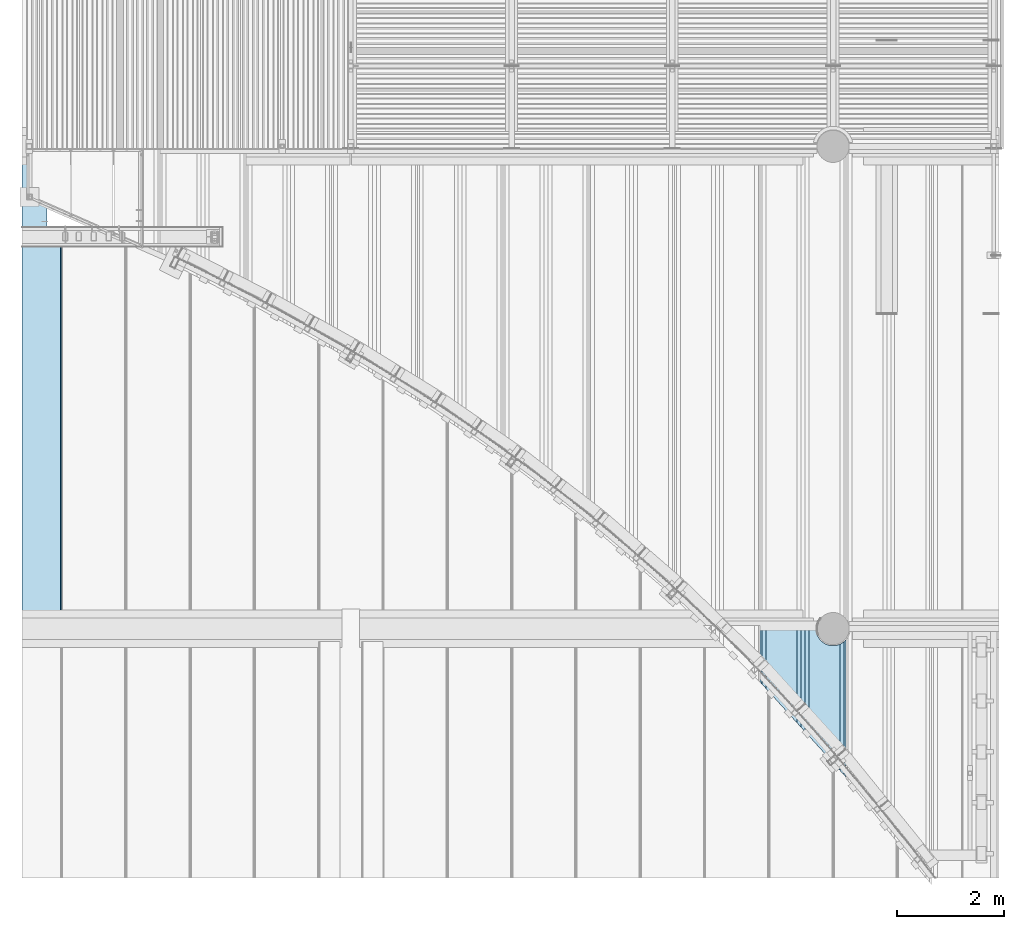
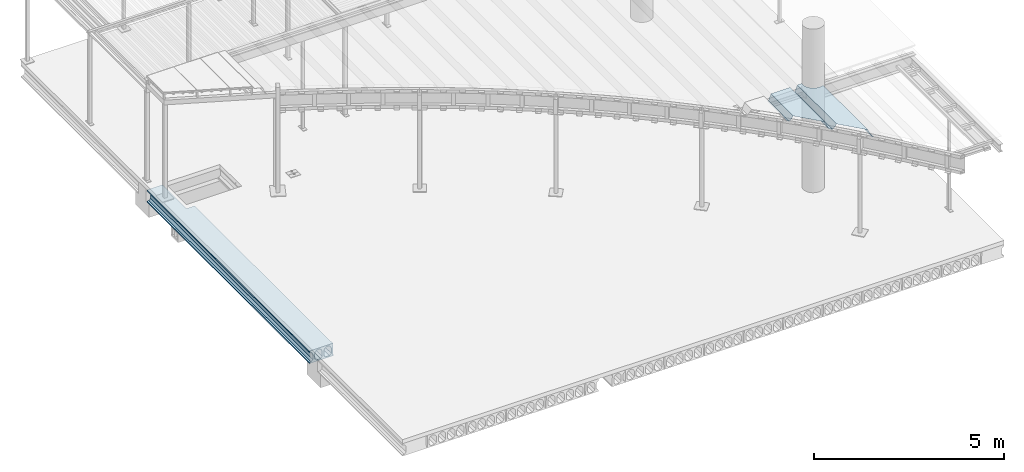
# One storey, part 52 of 98: 2 slabs.
"""IFC2X3 building model written with IfcOpenShell, lengths in millimetres."""

from ifc_helpers import new_model, entity, si_unit, converted_unit, derived_unit, direction, frame, origin_with_axes, place, context, subcontext, project, spatial, faceted_brep, material, type_object, element, save


model = new_model("IFC2X3")

# Units and contexts
model_context = context("Model", 3, precision=0.01, world=frame((0.0, 4.29681676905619e-09, 0.0)), true_north=direction((4.01073788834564e-13, 1.0)))
plan_context = context("Plan", 3, precision=0.01, world=frame((0.0, 4.29681676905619e-09, 0.0)), true_north=direction((4.01073788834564e-13, 1.0)))
body_context = subcontext(model_context, "Body", "Model", "MODEL_VIEW")
ifc_project = project(units=[converted_unit("PLANEANGLEUNIT", "DEGREE", entity("IfcPositiveLengthMeasure", 0.0174532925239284), si_unit("PLANEANGLEUNIT", "RADIAN"), dimensions=[0, 0, 0, 0, 0, 0, 0]), si_unit("AREAUNIT", "SQUARE_METRE"), si_unit("LENGTHUNIT", "METRE", prefix="MILLI"), si_unit("MASSUNIT", "GRAM", prefix="KILO"), si_unit("POWERUNIT", "WATT"), si_unit("PRESSUREUNIT", "PASCAL"), si_unit("FORCEUNIT", "NEWTON", prefix="KILO"), si_unit("ELECTRICCURRENTUNIT", "AMPERE"), si_unit("THERMODYNAMICTEMPERATUREUNIT", "DEGREE_CELSIUS"), si_unit("TIMEUNIT", "SECOND"), si_unit("VOLUMEUNIT", "CUBIC_METRE"), derived_unit("LINEARVELOCITYUNIT", [(si_unit("LENGTHUNIT", "METRE"), 1), (si_unit("TIMEUNIT", "SECOND"), -1)]), derived_unit("VOLUMETRICFLOWRATEUNIT", [(si_unit("VOLUMEUNIT", "CUBIC_METRE"), 1), (si_unit("TIMEUNIT", "SECOND"), -1)]), derived_unit("THERMALTRANSMITTANCEUNIT", [(si_unit("POWERUNIT", "WATT"), 1), (si_unit("THERMODYNAMICTEMPERATUREUNIT", "KELVIN"), -1), (si_unit("AREAUNIT", "SQUARE_METRE"), -1)])], contexts=[model_context, plan_context])

# Site, building, storey
site_placement = place(None, frame((0.0, -4.29681676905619e-09, 0.0), z_axis=(0.0, 0.0, 1.0), x_axis=(1.0, 0.0, 0.0)))
site = spatial("IfcSite", under=ifc_project, at=site_placement, Name="Gardermoen", CompositionType="ELEMENT")
building_placement = place(site_placement, frame((0.0, 4.29681676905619e-09, 0.0), z_axis=(0.0, 0.0, 1.0), x_axis=(1.0, 0.0, 0.0)))
building = spatial("IfcBuilding", under=site, at=building_placement, Name="TS", CompositionType="ELEMENT")
storey_placement = place(building_placement, origin_with_axes())
storey = spatial("IfcBuildingStorey", under=building, at=storey_placement, Name="D", CompositionType="ELEMENT", Elevation=0.0)

# Slabs
slab_type_1 = type_object("IfcSlabType", Name="HD400", PredefinedType="NOTDEFINED")
slab_1_placement = place(storey_placement, frame((513999.999766, 405739.995625, 203600.0), z_axis=(0.0, 0.0, 1.0), x_axis=(0.0, 1.0, 0.0)))
element("IfcSlab", 1, at=slab_1_placement, inside=storey, type_object=slab_type_1, Name="HULLDEKKE", ObjectType="HD400", PredefinedType="FLOOR", context=body_context, shape_type="Brep", body=[
    faceted_brep([(8520.00875000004, -329.890961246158, 114.735124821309), (8410.00409487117, -329.890108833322, 114.733930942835), (8410.00409487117, -329.890108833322, 200.0), (8520.00875000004, -329.890961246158, 200.0), (7259.97309409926, -329.998418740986, 114.885628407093), (7259.97309409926, -329.998418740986, 200.0), (8520.00875000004, -329.890961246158, -200.0), (8410.00409487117, -329.890108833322, -200.0), (8410.00409487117, -329.890108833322, -127.390108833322), (8520.00875000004, -329.890961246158, -127.390961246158), (7259.97309409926, -329.998418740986, -200.0), (7259.97309409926, -329.998418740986, -127.498418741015), (7259.97616103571, -477.5, -160.0), (7259.97730462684, -532.5, -105.0), (0.0, -532.5, -105.0), (0.0, -477.5, -160.0), (7259.97730462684, -532.5, 47.5), (0.0, -532.5, 47.5), (7259.97729663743, -532.115755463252, 56.7901763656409), (0.0, -532.115755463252, 56.7901763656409), (7259.97727272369, -530.965646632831, 66.0168914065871), (0.0, -530.965646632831, 66.0168914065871), (7259.97723304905, -529.057529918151, 75.1171173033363), (0.0, -529.057529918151, 75.1171173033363), (7259.97717788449, -526.404439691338, 84.028690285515), (0.0, -526.404439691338, 84.028690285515), (7259.97710760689, -523.024499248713, 92.6907352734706), (0.0, -523.024499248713, 92.6907352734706), (7259.97702269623, -518.940797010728, 101.044081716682), (0.0, -518.940797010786, 101.044081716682), (7259.97692373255, -514.181228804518, 109.031667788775), (0.0, -514.181228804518, 109.031667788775), (7259.97681139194, -508.778307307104, 116.598930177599), (0.0, -508.778307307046, 116.598930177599), (7259.97668644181, -502.768939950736, 123.694176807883), (0.0, -502.768939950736, 123.694176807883), (7259.97654973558, -496.194176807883, 130.268939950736), (0.0, -496.194176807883, 130.268939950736), (7259.97640220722, -489.09893017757, 136.278307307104), (0.0, -489.098930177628, 136.278307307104), (7259.9762448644, -481.531667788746, 141.681228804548), (0.0, -481.531667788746, 141.681228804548), (7259.976078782, -473.544081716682, 146.440797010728), (0.0, -473.544081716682, 146.440797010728), (7259.97590509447, -465.190735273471, 150.524499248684), (0.0, -465.190735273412, 150.524499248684), (7259.97572498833, -456.528690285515, 153.904439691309), (0.0, -456.528690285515, 153.904439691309), (7259.97553969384, -447.617117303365, 156.55752991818), (0.0, -447.617117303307, 156.55752991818), (7259.9753504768, -438.516891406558, 158.465646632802), (0.0, -438.516891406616, 158.465646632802), (7259.97515862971, -429.290176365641, 159.615755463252), (0.0, -429.290176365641, 159.615755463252), (7259.9749654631, -420.0, 160.0), (0.0, -420.0, 160.0), (7259.9747722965, -410.709823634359, 159.615755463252), (0.0, -410.709823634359, 159.615755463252), (7259.97458044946, -401.483108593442, 158.465646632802), (0.0, -401.483108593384, 158.465646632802), (7259.97439123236, -392.382882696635, 156.55752991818), (0.0, -392.382882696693, 156.55752991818), (7259.97420593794, -383.471309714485, 153.904439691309), (0.0, -383.471309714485, 153.904439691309), (7259.97402583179, -374.809264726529, 150.524499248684), (0.0, -374.809264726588, 150.524499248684), (7259.97385214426, -366.455918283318, 146.440797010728), (0.0, -366.455918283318, 146.440797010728), (7259.97368606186, -358.468332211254, 141.681228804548), (0.0, -358.468332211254, 141.681228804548), (7259.97352871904, -350.90106982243, 136.278307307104), (0.0, -350.901069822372, 136.278307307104), (7259.97338119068, -343.805823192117, 130.268939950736), (0.0, -343.805823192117, 130.268939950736), (7259.97324448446, -337.231060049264, 123.694176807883), (0.0, -337.231060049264, 123.694176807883), (7259.97311953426, -331.221692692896, 116.598930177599), (0.0, -331.221692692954, 116.598930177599), (8520.00875000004, -325.818771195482, 109.031667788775), (0.0, -325.818771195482, 109.031667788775), (8520.00875000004, -321.059202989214, 101.044081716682), (0.0, -321.059202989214, 101.044081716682), (8520.00875000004, -316.975500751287, 92.6907352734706), (0.0, -316.975500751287, 92.6907352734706), (8520.00875000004, -313.595560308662, 84.028690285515), (0.0, -313.595560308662, 84.028690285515), (8520.00875000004, -310.942470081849, 75.1171173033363), (0.0, -310.942470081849, 75.1171173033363), (8520.00875000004, -309.034353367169, 66.0168914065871), (0.0, -309.034353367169, 66.0168914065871), (8520.00875000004, -307.884244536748, 56.7901763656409), (0.0, -307.884244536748, 56.7901763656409), (8520.00875000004, -307.5, 47.5), (0.0, -307.5, 47.5), (8520.00875000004, -307.5, -105.0), (0.0, -307.5, -105.0), (8520.00875000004, 137.499765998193, -200.0), (0.0, 137.499765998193, -200.0), (0.0, -583.380004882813, -200.0), (7259.97836255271, -583.380004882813, -200.0), (7259.97870812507, -600.0, -190.0), (0.0, -600.0, -190.0), (7259.97870812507, -600.0, -180.0), (0.0, -600.0, -180.0), (7259.97839623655, -585.0, -170.0), (0.0, -585.0, -170.0), (7259.97824029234, -577.5, 145.0), (0.0, -577.5, 145.0), (7259.97808434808, -570.0, 160.0), (0.0, -570.0, 160.0), (7259.97824029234, -577.5, 175.0), (0.0, -577.5, 175.0), (7259.97824029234, -577.5, 200.0), (0.0, -577.5, 200.0), (0.0, 137.499765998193, 200.0), (8520.00875000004, 137.499765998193, 200.0), (7259.97376989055, -362.5, -160.0), (0.0, -362.5, -160.0), (8520.00875000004, -27.5, -105.0), (8520.00875000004, -82.5, -160.0), (0.0, -82.5, -160.0), (0.0, -27.5, -105.0), (8520.00875000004, -27.5, 47.5), (0.0, -27.5, 47.5), (8520.00875000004, -27.8842445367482, 56.7901763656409), (0.0, -27.8842445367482, 56.7901763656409), (8520.00875000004, -29.0343533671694, 66.0168914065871), (0.0, -29.0343533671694, 66.0168914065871), (8520.00875000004, -30.942470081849, 75.1171173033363), (0.0, -30.942470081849, 75.1171173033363), (8520.00875000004, -33.5955603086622, 84.028690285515), (0.0, -33.5955603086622, 84.028690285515), (8520.00875000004, -36.9755007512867, 92.6907352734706), (0.0, -36.9755007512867, 92.6907352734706), (8520.00875000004, -41.0592029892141, 101.044081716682), (0.0, -41.0592029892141, 101.044081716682), (8520.00875000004, -45.8187711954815, 109.031667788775), (0.0, -45.8187711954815, 109.031667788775), (8520.00875000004, -51.2216926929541, 116.598930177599), (0.0, -51.2216926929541, 116.598930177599), (8520.00875000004, -57.2310600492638, 123.694176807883), (0.0, -57.2310600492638, 123.694176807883), (8520.00875000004, -63.8058231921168, 130.268939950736), (0.0, -63.8058231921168, 130.268939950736), (8520.00875000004, -70.9010698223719, 136.278307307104), (0.0, -70.9010698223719, 136.278307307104), (8520.00875000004, -78.4683322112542, 141.681228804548), (0.0, -78.4683322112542, 141.681228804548), (8520.00875000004, -86.4559182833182, 146.440797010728), (0.0, -86.4559182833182, 146.440797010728), (8520.00875000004, -94.8092647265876, 150.524499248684), (0.0, -94.8092647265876, 150.524499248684), (8520.00875000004, -103.471309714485, 153.904439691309), (0.0, -103.471309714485, 153.904439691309), (8520.00875000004, -112.382882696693, 156.55752991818), (0.0, -112.382882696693, 156.55752991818), (8520.00875000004, -121.483108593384, 158.465646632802), (0.0, -121.483108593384, 158.465646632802), (8520.00875000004, -130.709823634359, 159.615755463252), (0.0, -130.709823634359, 159.615755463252), (8520.00875000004, -140.0, 160.0), (0.0, -140.0, 160.0), (8520.00875000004, -149.290176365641, 159.615755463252), (0.0, -149.290176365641, 159.615755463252), (8520.00875000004, -158.516891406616, 158.465646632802), (0.0, -158.516891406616, 158.465646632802), (8520.00875000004, -167.617117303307, 156.55752991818), (0.0, -167.617117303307, 156.55752991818), (8520.00875000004, -176.528690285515, 153.904439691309), (0.0, -176.528690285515, 153.904439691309), (8520.00875000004, -185.190735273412, 150.524499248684), (0.0, -185.190735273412, 150.524499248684), (8520.00875000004, -193.544081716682, 146.440797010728), (0.0, -193.544081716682, 146.440797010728), (8520.00875000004, -201.531667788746, 141.681228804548), (0.0, -201.531667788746, 141.681228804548), (8520.00875000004, -209.098930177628, 136.278307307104), (0.0, -209.098930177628, 136.278307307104), (8520.00875000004, -216.194176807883, 130.268939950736), (0.0, -216.194176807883, 130.268939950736), (8520.00875000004, -222.768939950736, 123.694176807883), (0.0, -222.768939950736, 123.694176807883), (8520.00875000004, -228.778307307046, 116.598930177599), (0.0, -228.778307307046, 116.598930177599), (8520.00875000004, -234.181228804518, 109.031667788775), (0.0, -234.181228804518, 109.031667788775), (8520.00875000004, -238.940797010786, 101.044081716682), (0.0, -238.940797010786, 101.044081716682), (8520.00875000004, -243.024499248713, 92.6907352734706), (0.0, -243.024499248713, 92.6907352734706), (8520.00875000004, -246.404439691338, 84.028690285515), (0.0, -246.404439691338, 84.028690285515), (8520.00875000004, -249.057529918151, 75.1171173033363), (0.0, -249.057529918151, 75.1171173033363), (8520.00875000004, -250.965646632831, 66.0168914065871), (0.0, -250.965646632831, 66.0168914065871), (8520.00875000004, -252.115755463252, 56.7901763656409), (0.0, -252.115755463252, 56.7901763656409), (8520.00875000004, -252.5, 47.5), (0.0, -252.5, 47.5), (8520.00875000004, -252.5, -105.0), (0.0, -252.5, -105.0), (8520.00875000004, -197.5, -160.0), (0.0, -197.5, -160.0), (8520.00875000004, 137.499765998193, 159.896589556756), (0.0, 137.499765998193, 159.896589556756), (0.0, 130.709823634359, 159.615755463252), (8520.00875000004, 130.709823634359, 159.615755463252), (8520.00875000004, 121.483108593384, 158.465646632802), (0.0, 121.483108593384, 158.465646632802), (8520.00875000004, 112.382882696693, 156.55752991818), (0.0, 112.382882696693, 156.55752991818), (8520.00875000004, 103.471309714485, 153.904439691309), (0.0, 103.471309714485, 153.904439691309), (8520.00875000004, 94.8092647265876, 150.524499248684), (0.0, 94.8092647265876, 150.524499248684), (8520.00875000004, 86.4559182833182, 146.440797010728), (0.0, 86.4559182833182, 146.440797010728), (8520.00875000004, 78.4683322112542, 141.681228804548), (0.0, 78.4683322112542, 141.681228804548), (8520.00875000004, 70.9010698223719, 136.278307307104), (0.0, 70.9010698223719, 136.278307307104), (8520.00875000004, 63.8058231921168, 130.268939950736), (0.0, 63.8058231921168, 130.268939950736), (8520.00875000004, 57.2310600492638, 123.694176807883), (0.0, 57.2310600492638, 123.694176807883), (8520.00875000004, 51.2216926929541, 116.598930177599), (0.0, 51.2216926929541, 116.598930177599), (8520.00875000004, 45.8187711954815, 109.031667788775), (0.0, 45.8187711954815, 109.031667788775), (8520.00875000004, 41.0592029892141, 101.044081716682), (0.0, 41.0592029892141, 101.044081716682), (8520.00875000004, 36.9755007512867, 92.6907352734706), (0.0, 36.9755007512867, 92.6907352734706), (8520.00875000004, 33.5955603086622, 84.028690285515), (0.0, 33.5955603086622, 84.028690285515), (8520.00875000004, 30.942470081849, 75.1171173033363), (0.0, 30.942470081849, 75.1171173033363), (8520.00875000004, 29.0343533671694, 66.0168914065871), (0.0, 29.0343533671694, 66.0168914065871), (8520.00875000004, 27.8842445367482, 56.7901763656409), (0.0, 27.8842445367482, 56.7901763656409), (8520.00875000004, 27.5, 47.5), (0.0, 27.5, 47.5), (8520.00875000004, 27.5, -105.0), (0.0, 27.5, -105.0), (8520.00875000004, 82.5, -160.0), (0.0, 82.5, -160.0), (0.0, 137.499765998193, -160.0), (8520.00875000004, 137.499765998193, -160.0)], [[[0, 1, 2, 3]], [[2, 1, 4, 5]], [[6, 7, 8, 9]], [[8, 7, 10, 11]], [[12, 13, 14, 15]], [[13, 16, 17, 14]], [[16, 18, 19, 17]], [[18, 20, 21, 19]], [[20, 22, 23, 21]], [[22, 24, 25, 23]], [[24, 26, 27, 25]], [[26, 28, 29, 27]], [[28, 30, 31, 29]], [[30, 32, 33, 31]], [[32, 34, 35, 33]], [[34, 36, 37, 35]], [[36, 38, 39, 37]], [[38, 40, 41, 39]], [[40, 42, 43, 41]], [[42, 44, 45, 43]], [[44, 46, 47, 45]], [[46, 48, 49, 47]], [[48, 50, 51, 49]], [[50, 52, 53, 51]], [[52, 54, 55, 53]], [[54, 56, 57, 55]], [[56, 58, 59, 57]], [[58, 60, 61, 59]], [[60, 62, 63, 61]], [[62, 64, 65, 63]], [[64, 66, 67, 65]], [[66, 68, 69, 67]], [[68, 70, 71, 69]], [[70, 72, 73, 71]], [[72, 74, 75, 73]], [[74, 76, 77, 75]], [[1, 0, 78, 79, 77, 76, 4]], [[78, 80, 81, 79]], [[80, 82, 83, 81]], [[82, 84, 85, 83]], [[84, 86, 87, 85]], [[86, 88, 89, 87]], [[88, 90, 91, 89]], [[90, 92, 93, 91]], [[92, 94, 95, 93]], [[96, 97, 98, 99, 10, 7, 6]], [[100, 99, 98, 101]], [[102, 100, 101, 103]], [[104, 102, 103, 105]], [[106, 104, 105, 107]], [[108, 106, 107, 109]], [[110, 108, 109, 111]], [[112, 110, 111, 113]], [[114, 115, 3, 2, 5, 112, 113]], [[5, 4, 76, 74, 72, 70, 68, 66, 64, 62, 60, 58, 56, 54, 52, 50, 48, 46, 44, 42, 40, 38, 36, 34, 32, 30, 28, 26, 24, 22, 20, 18, 16, 13, 12, 116, 11, 10, 99, 100, 102, 104, 106, 108, 110, 112]], [[116, 12, 15, 117]], [[118, 119, 120, 121]], [[122, 118, 121, 123]], [[124, 122, 123, 125]], [[126, 124, 125, 127]], [[128, 126, 127, 129]], [[130, 128, 129, 131]], [[132, 130, 131, 133]], [[134, 132, 133, 135]], [[136, 134, 135, 137]], [[138, 136, 137, 139]], [[140, 138, 139, 141]], [[142, 140, 141, 143]], [[144, 142, 143, 145]], [[146, 144, 145, 147]], [[148, 146, 147, 149]], [[150, 148, 149, 151]], [[152, 150, 151, 153]], [[154, 152, 153, 155]], [[156, 154, 155, 157]], [[158, 156, 157, 159]], [[160, 158, 159, 161]], [[162, 160, 161, 163]], [[164, 162, 163, 165]], [[166, 164, 165, 167]], [[168, 166, 167, 169]], [[170, 168, 169, 171]], [[172, 170, 171, 173]], [[174, 172, 173, 175]], [[176, 174, 175, 177]], [[178, 176, 177, 179]], [[180, 178, 179, 181]], [[182, 180, 181, 183]], [[184, 182, 183, 185]], [[186, 184, 185, 187]], [[188, 186, 187, 189]], [[190, 188, 189, 191]], [[192, 190, 191, 193]], [[194, 192, 193, 195]], [[196, 194, 195, 197]], [[198, 196, 197, 199]], [[200, 198, 199, 201]], [[202, 200, 201, 203]], [[119, 202, 203, 120]], [[204, 205, 206, 207]], [[208, 207, 206, 209]], [[210, 208, 209, 211]], [[212, 210, 211, 213]], [[214, 212, 213, 215]], [[216, 214, 215, 217]], [[218, 216, 217, 219]], [[220, 218, 219, 221]], [[222, 220, 221, 223]], [[224, 222, 223, 225]], [[226, 224, 225, 227]], [[228, 226, 227, 229]], [[230, 228, 229, 231]], [[232, 230, 231, 233]], [[234, 232, 233, 235]], [[236, 234, 235, 237]], [[238, 236, 237, 239]], [[240, 238, 239, 241]], [[242, 240, 241, 243]], [[244, 242, 243, 245]], [[246, 244, 245, 247]], [[248, 249, 246, 247]], [[97, 248, 247, 245, 243, 241, 239, 237, 235, 233, 231, 229, 227, 225, 223, 221, 219, 217, 215, 213, 211, 209, 206, 205, 114, 113, 111, 109, 107, 105, 103, 101, 98], [120, 203, 201, 199, 197, 195, 193, 191, 189, 187, 185, 183, 181, 179, 177, 175, 173, 171, 169, 167, 165, 163, 161, 159, 157, 155, 153, 151, 149, 147, 145, 143, 141, 139, 137, 135, 133, 131, 129, 127, 125, 123, 121], [117, 15, 14, 17, 19, 21, 23, 25, 27, 29, 31, 33, 35, 37, 39, 41, 43, 45, 47, 49, 51, 53, 55, 57, 59, 61, 63, 65, 67, 69, 71, 73, 75, 77, 79, 81, 83, 85, 87, 89, 91, 93, 95]], [[115, 204, 207, 208, 210, 212, 214, 216, 218, 220, 222, 224, 226, 228, 230, 232, 234, 236, 238, 240, 242, 244, 246, 249, 96, 6, 9, 94, 92, 90, 88, 86, 84, 82, 80, 78, 0, 3], [202, 119, 118, 122, 124, 126, 128, 130, 132, 134, 136, 138, 140, 142, 144, 146, 148, 150, 152, 154, 156, 158, 160, 162, 164, 166, 168, 170, 172, 174, 176, 178, 180, 182, 184, 186, 188, 190, 192, 194, 196, 198, 200]], [[9, 8, 11, 116, 117, 95, 94]], [[249, 248, 97, 96]], [[205, 204, 115, 114]]], orient=[[False], [False], [False], [False], [False], [False], [False], [False], [False], [False], [False], [False], [False], [False], [False], [False], [False], [False], [False], [False], [False], [False], [False], [False], [False], [False], [False], [False], [False], [False], [False], [False], [False], [False], [False], [False], [False], [False], [False], [False], [False], [False], [False], [False], [False], [False], [False], [False], [False], [False], [False], [False], [False], [False], [False], [False], [False], [False], [False], [False], [False], [False], [False], [False], [False], [False], [False], [False], [False], [False], [False], [False], [False], [False], [False], [False], [False], [False], [False], [False], [False], [False], [False], [False], [False], [False], [False], [False], [False], [False], [False], [False], [False], [False], [False], [False], [False], [False], [False], [False], [False], [False], [False], [False], [False], [False], [False], [False], [False], [False], [False], [False], [False], [False], [False], [False], [False], [False], [False], [False], [False], [False, False, False], [False, False], [False], [False], [False]]),
])
ifc_material = material(Name="STEEL/S355")
slab_type_2 = type_object("IfcSlabType", Name="PLANNJA200", PredefinedType="NOTDEFINED")
slab_2_placement = place(storey_placement, frame((528440.35, 404471.21, 207199.0), z_axis=(0.0, 0.0, 1.0), x_axis=(0.0, 1.0, 0.0)))
element("IfcSlab", 2, at=slab_2_placement, inside=storey, type_object=slab_type_2, material=ifc_material, Name="STÅLTAK", ObjectType="PLANNJA200", PredefinedType="FLOOR", context=body_context, shape_type="Brep", body=[
    faceted_brep([(818.530194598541, -800.0, -98.5), (818.530194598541, -800.0, -99.5), (806.92244880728, -790.242050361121, -99.5), (806.92244880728, -790.242050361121, -98.5), (781.711076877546, -762.5, -99.5), (778.081122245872, -758.505676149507, -88.695160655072), (778.081122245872, -758.505676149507, -85.8111697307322), (782.344015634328, -763.196472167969, -98.5), (753.742429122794, -723.19777925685, 6.81440937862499), (753.742429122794, -723.19777925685, 9.69840030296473), (736.55044646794, -689.303527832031, 98.5), (734.343501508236, -684.952502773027, 98.5), (734.343501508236, -684.952502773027, 99.5), (736.903713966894, -690.0, 99.5), (720.232751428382, -644.456746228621, 98.5), (720.232751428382, -644.456746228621, 99.5), (711.663613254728, -602.437828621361, 98.5), (711.663613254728, -602.437828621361, 99.5), (708.789991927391, -559.65042549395, 98.5), (708.789991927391, -559.65042549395, 99.5), (711.663498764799, -516.863014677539, 98.5), (711.663498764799, -516.863014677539, 99.5), (720.232524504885, -474.844074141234, 98.5), (720.232524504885, -474.844074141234, 99.5), (734.343166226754, -434.348279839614, 98.5), (734.343166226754, -434.348279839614, 99.5), (753.741991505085, -396.102951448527, 98.5), (753.741991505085, -396.102951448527, 99.5), (778.080590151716, -360.794989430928, 98.5), (778.080590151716, -360.794989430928, 99.5), (806.921831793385, -329.058538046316, 98.5), (806.921831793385, -329.058538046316, 99.5), (839.747716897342, -301.463595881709, 98.5), (839.747716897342, -301.463595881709, 99.5), (875.968680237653, -278.505778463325, 98.5), (875.968680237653, -278.505778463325, 99.5), (914.934179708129, -260.597416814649, 98.5), (914.934179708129, -260.597416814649, 99.5), (955.944380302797, -248.06015183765, 98.5), (955.944380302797, -248.06015183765, 99.5), (998.262723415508, -241.119157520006, 98.5), (998.262723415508, -241.119157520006, 99.5), (1041.12915570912, -239.899096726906, 98.5), (1041.12915570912, -239.899096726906, 99.5), (1083.77377995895, -244.421882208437, 99.5), (1083.76999999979, -244.421882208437, 98.5), (-978.949405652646, -110.696464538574, 98.5), (-897.973891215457, -37.5, -99.5), (1083.76999999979, -37.5, -99.5), (1083.76999999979, -110.696464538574, 98.5), (-815.003168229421, 37.5, -99.5), (1083.76999999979, 37.5, -99.5), (-734.027653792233, 110.696464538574, 98.5), (1083.76999999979, 110.696464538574, 98.5), (-93.9283689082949, 689.303527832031, 98.5), (1083.76999999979, 689.303527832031, 98.5), (-12.9528460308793, 762.5, -99.5), (1083.76999999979, 762.5, -99.5), (28.5325154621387, 800.0, -99.5), (1083.76999999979, 800.0, -99.5), (28.5325154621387, 800.0, -98.5), (1083.76999999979, 800.0, -98.5), (-815.773650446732, 36.8035354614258, -98.5), (-897.203408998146, -36.8035354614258, -98.5), (1083.76999999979, -36.8035354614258, -98.5), (1083.76999999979, 36.8035354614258, -98.5), (-734.798136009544, 110.0, 99.5), (1083.76999999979, 110.0, 99.5), (-93.1578782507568, 690.0, 99.5), (1083.76999999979, 690.0, 99.5), (-12.1823553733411, 763.196472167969, -98.5), (1083.76999999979, 763.196472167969, -98.5), (-1619.04869053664, -689.303527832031, 98.5), (-1700.024213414, -762.5, -99.5), (-1741.50957490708, -800.0, -99.5), (-1741.50957490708, -800.0, -98.5), (-1700.7947040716, -763.196472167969, -98.5), (-1619.81918119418, -690.0, 99.5), (-978.178923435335, -110.0, 99.5), (1083.76999999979, -110.0, 99.5)], [[[0, 1, 2, 3]], [[3, 2, 4, 5, 6, 7]], [[6, 5, 8, 9]], [[9, 8, 10, 11, 12, 13]], [[12, 11, 14, 15]], [[15, 14, 16, 17]], [[17, 16, 18, 19]], [[19, 18, 20, 21]], [[21, 20, 22, 23]], [[23, 22, 24, 25]], [[25, 24, 26, 27]], [[27, 26, 28, 29]], [[29, 28, 30, 31]], [[31, 30, 32, 33]], [[33, 32, 34, 35]], [[35, 34, 36, 37]], [[37, 36, 38, 39]], [[39, 38, 40, 41]], [[41, 40, 42, 43]], [[44, 43, 42, 45]], [[46, 47, 48, 49]], [[47, 50, 51, 48]], [[50, 52, 53, 51]], [[52, 54, 55, 53]], [[54, 56, 57, 55]], [[56, 58, 59, 57]], [[58, 60, 61, 59]], [[62, 63, 64, 65]], [[66, 62, 65, 67]], [[68, 66, 67, 69]], [[70, 68, 69, 71]], [[60, 70, 71, 61]], [[58, 56, 54, 52, 50, 47, 46, 72, 73, 74, 75, 76, 77, 78, 63, 62, 66, 68, 70, 60]], [[63, 78, 79, 64]], [[49, 48, 51, 53, 55, 57, 59, 61, 71, 69, 67, 65, 64, 79, 44, 45]], [[40, 38, 36, 34, 32, 30, 28, 26, 24, 22, 20, 18, 16, 14, 11, 10, 72, 46, 49, 45, 42]], [[73, 72, 10, 8, 5, 4]], [[74, 73, 4, 2, 1]], [[75, 74, 1, 0]], [[7, 76, 75, 0, 3]], [[9, 13, 77, 76, 7, 6]], [[79, 78, 77, 13, 12, 15, 17, 19, 21, 23, 25, 27, 29, 31, 33, 35, 37, 39, 41, 43, 44]]]),
])

save(model, "model.ifc")
